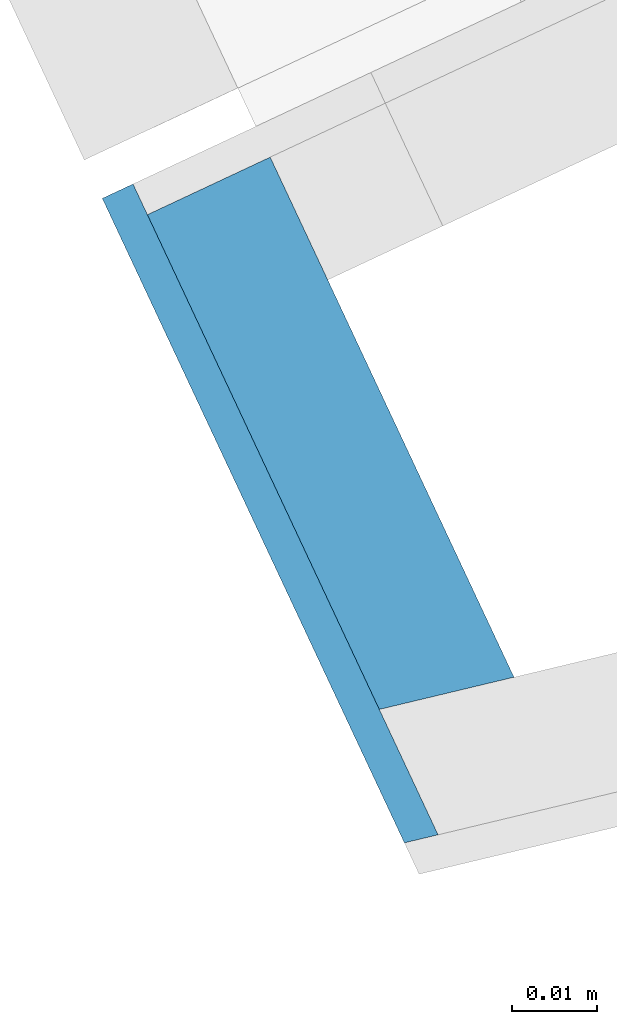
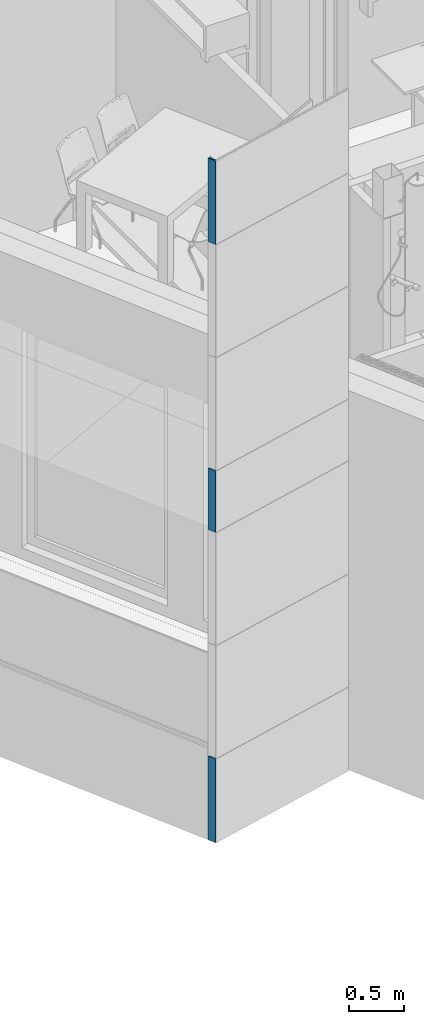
# One storey, part 27 of 125: 6 building element parts, 1 element without a shape of its own.
"""IFC2X3 building model written with IfcOpenShell, lengths in millimetres."""

from ifc_helpers import new_model, entity, si_unit, converted_unit, direction, frame, origin, place, context, subcontext, project, spatial, polyline, outline, extrude, material, type_object, element, aggregate, save


model = new_model("IFC2X3")

# Units and contexts
model_context = context("Model", 3, precision=0.01, world=origin(), true_north=direction((6.123233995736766e-17, 1.0)))
plan_context = context("Plan", 3, precision=0.01, world=origin(), true_north=direction((6.123233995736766e-17, 1.0)))
body_context = subcontext(model_context, "Body", "Model", "MODEL_VIEW")
ifc_project = project(units=[si_unit("LENGTHUNIT", "METRE", prefix="MILLI"), converted_unit("PLANEANGLEUNIT", "DEGREE", entity("IfcPlaneAngleMeasure", 0.017453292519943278), si_unit("PLANEANGLEUNIT", "RADIAN"), dimensions=[0, 0, 0, 0, 0, 0, 0]), si_unit("AREAUNIT", "SQUARE_METRE")], contexts=[model_context, plan_context])

# Site, building, storey
site_placement = place(None, origin())
site = spatial("IfcSite", under=ifc_project, at=site_placement, Name="Default", CompositionType="ELEMENT")
building_placement = place(site_placement, origin())
building = spatial("IfcBuilding", under=site, at=building_placement, CompositionType="ELEMENT")
storey_placement = place(building_placement, frame((0.0, 0.0, 3125.0)))
storey = spatial("IfcBuildingStorey", under=building, at=storey_placement, Name="2K", CompositionType="ELEMENT", Elevation=3125.0)

# Wall, building element parts
wall_type = type_object("IfcWallType", Name="Basic Wall:VS-komposiit", PredefinedType="STANDARD")
wall_placement = place(storey_placement, frame((-3705.120810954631, 7523.378231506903, -1010.0), z_axis=(0.0, 0.0, 1.0), x_axis=(-0.4244360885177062, 0.9054578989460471, 0.0)))
wall = element("IfcWall", 1, at=wall_placement, inside=storey, type_object=wall_type, Name="Basic Wall:VS-komposiit", ObjectType="Basic Wall:VS-komposiit")
ifc_material_1 = material(Name="_K. Välisviimistlus. Alumiinium-komposiitplaat")
building_element_part_1_placement = place(wall_placement, origin())
building_element_part_1 = element("IfcBuildingElementPart", 2, at=building_element_part_1_placement, material=ifc_material_1, Name="Part", context=body_context, shape_type="SweptSolid", body=[
    extrude(outline(polyline([(-2.0, -42.20013519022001), (2.0, -42.20013519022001), (2.0, 41.787668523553), (-2.0, 42.61260185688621), (-2.0, -42.20013519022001)])), frame((29.575620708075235, 8.0, 6587.499999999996), z_axis=(0.0, 0.0, 1.0), x_axis=(0.0, 1.0, 0.0)), (0.0, 0.0, 1.0), 917.5000000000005),
])
ifc_material_2 = material(Name="_K. Õhk. Roov. Fassaadikatte alusroov. Horisontaalne. 25 mm")
building_element_part_2_placement = place(wall_placement, origin())
building_element_part_2 = element("IfcBuildingElementPart", 3, at=building_element_part_2_placement, material=ifc_material_2, Name="Part", context=body_context, shape_type="SweptSolid", body=[
    extrude(outline(polyline([(-34.7128112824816, -8.0), (33.062944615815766, -8.0), (33.06294461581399, 8.0), (-31.413077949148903, 8.0), (-34.7128112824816, -8.0)])), frame((34.712811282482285, -2.0, 6587.499999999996)), (0.0, 0.0, 1.0), 917.5000000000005),
])
building_element_part_3_placement = place(wall_placement, origin())
building_element_part_3 = element("IfcBuildingElementPart", 4, at=building_element_part_3_placement, material=ifc_material_2, Name="Part", context=body_context, shape_type="SweptSolid", body=[
    extrude(outline(polyline([(-34.7128112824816, -8.0), (33.062944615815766, -8.0), (33.06294461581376, 8.0), (-31.413077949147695, 8.0), (-34.7128112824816, -8.0)])), frame((34.712811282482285, -2.0, 3417.5000000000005)), (0.0, 0.0, 1.0), 674.9999999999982),
])
building_element_part_4_placement = place(wall_placement, origin())
building_element_part_4 = element("IfcBuildingElementPart", 5, at=building_element_part_4_placement, material=ifc_material_2, Name="Part", context=body_context, shape_type="SweptSolid", body=[
    extrude(outline(polyline([(-34.7128112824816, -8.0), (33.062944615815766, -8.0), (33.06294461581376, 8.0), (-31.413077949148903, 8.0), (-34.7128112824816, -8.0)])), frame((34.712811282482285, -2.0, 0.0)), (0.0, 0.0, 1.0), 922.5000000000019),
])
building_element_part_5_placement = place(wall_placement, origin())
building_element_part_5 = element("IfcBuildingElementPart", 6, at=building_element_part_5_placement, material=ifc_material_1, Name="Part", context=body_context, shape_type="SweptSolid", body=[
    extrude(outline(polyline([(-2.0, -42.20013519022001), (2.0, -42.20013519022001), (2.0, 41.787668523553), (-2.0, 42.612601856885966), (-2.0, -42.20013519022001)])), frame((29.575620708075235, 8.0, 3417.5000000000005), z_axis=(0.0, 0.0, 1.0), x_axis=(0.0, 1.0, 0.0)), (0.0, 0.0, 1.0), 674.9999999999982),
])
building_element_part_6_placement = place(wall_placement, origin())
building_element_part_6 = element("IfcBuildingElementPart", 7, at=building_element_part_6_placement, material=ifc_material_1, Name="Part", context=body_context, shape_type="SweptSolid", body=[
    extrude(outline(polyline([(-2.0, -42.20013519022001), (2.0, -42.20013519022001), (2.0, 41.787668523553), (-2.0, 42.612601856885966), (-2.0, -42.20013519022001)])), frame((29.575620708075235, 8.0, 0.0), z_axis=(0.0, 0.0, 1.0), x_axis=(0.0, 1.0, 0.0)), (0.0, 0.0, 1.0), 922.5000000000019),
])
aggregate(wall, [building_element_part_1, building_element_part_2, building_element_part_3, building_element_part_4, building_element_part_5, building_element_part_6])

save(model, "model.ifc")
